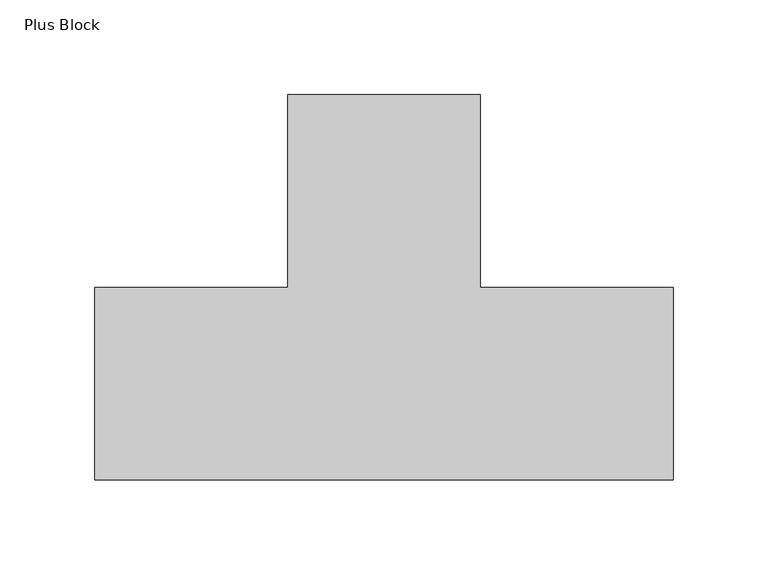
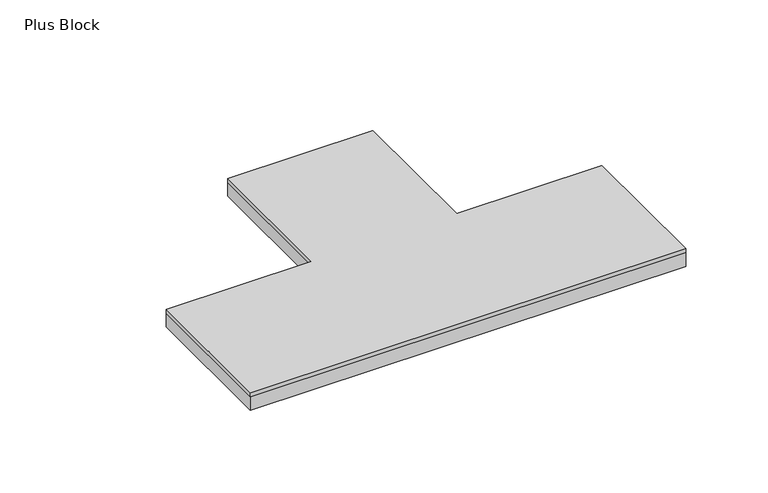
"""IFC4 building model written with IfcOpenShell, lengths in millimetres: proxy geometry, FilzFelt_Plus_Block : Plus Block."""

from ifc_helpers import new_model, si_unit, frame, origin, origin_with_axes, place, context, project, spatial, polyline, outline, extrude, source, transform, mapped, element, save


def plus_block_c83dc92b(model_context):
    return source(origin(), model_context, "Body", "SweptSolid", [
        extrude(outline(polyline([(50.8333333, 50.8333333), (152.5, 50.8333333), (152.5, -50.8333333), (-152.5, -50.8333333), (-152.5, 50.8333333), (-50.8333333, 50.8333333), (-50.8333333, 152.5), (50.8333333, 152.5), (50.8333333, 50.8333333)])), frame((0.0, 0.0, 10.0210937), z_axis=(0.0, 0.0, 1.0), x_axis=(1.0, 0.0, 0.0)), (0.0, 0.0, 1.0), 2.9765625),
        extrude(outline(polyline([(-152.5, -50.8333333), (-152.5, 50.8333333), (-50.8333333, 50.8333333), (-50.8333333, 152.5), (50.8333333, 152.5), (50.8333333, 50.8333333), (152.5, 50.8333333), (152.5, -50.8333333), (-152.5, -50.8333333)])), origin_with_axes(), (0.0, 0.0, 1.0), 10.0210938),
    ])


if __name__ == "__main__":
    model = new_model("IFC4")
    model_context = context("Model", 3, world=origin())
    ifc_project = project(units=[si_unit("LENGTHUNIT", "METRE", prefix="MILLI")], contexts=[model_context])
    site = spatial("IfcSite", under=ifc_project)
    building = spatial("IfcBuilding", under=site)
    placement = place(None, origin())
    plus_block_shape = plus_block_c83dc92b(model_context)
    element("IfcBuildingElementProxy", 1, Name="FilzFelt_Plus_Block : Plus Block", ObjectType="FilzFelt_Plus_Block : Plus Block", at=placement, inside=building, context=model_context, shape_type="MappedRepresentation", body=[
        mapped(plus_block_shape, transform((0.0, 0.0, 0.0), x_axis=(1.0, 0.0, 0.0), y_axis=(0.0, 1.0, 0.0), z_axis=(0.0, 0.0, 1.0))),
    ])
    save(model, "model.ifc")
